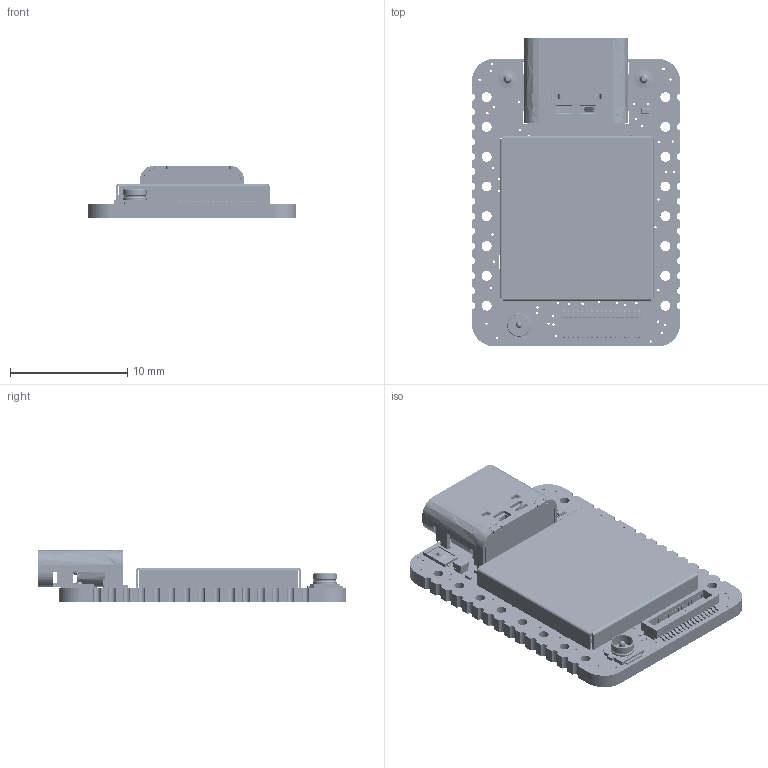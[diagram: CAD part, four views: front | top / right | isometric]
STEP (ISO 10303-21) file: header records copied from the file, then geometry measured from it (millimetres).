
FILE_DESCRIPTION(('Designed by EasyEDA Pro'),'2;1');
FILE_NAME('Open CASCADE Shape Model','2026-05-27T17:10:09',('Author'),( 'Open CASCADE'),'Open CASCADE STEP processor 7.8','Open CASCADE 7.8' ,'Unknown');
FILE_SCHEMA(('AUTOMOTIVE_DESIGN { 1 0 10303 214 1 1 1 1 }'));
Length unit declared in the file: millimetre
Products named in the file (908): EasyEDA PCB Model~xSNd; Board~xSNd; TopCopper~xSNd; BottomCopper~xSNd; TopSilkscreen~xSNd; BottomSilkscreen~xSNd; TopFpcStiffener~xSNd; BottomFpcStiffener~xSNd; U8~w11-屏蔽罩~w11-屏蔽罩~xSNd; w11-屏蔽罩~w11-屏蔽罩~xSNd; U3~LED-SMD-4P-H1010-RGB~LED-SMD_4P-L1.0-W1.0_
TZ-H1010-RGB-A-BU08UF-TA1305NA-W109~xSNd; LED-SMD-4P-H1010-RGB~LED-SMD_4P-L1.0-W1.0_
TZ-H1010-RGB-A-BU08UF-TA1305NA-W109~xSNd; U7~LGA-14_L3.0-W2.5-P0.50-BR~LGA-14_L3.0-W2.5-P0.50-BR~xSNd; LGA-14_L3.0-W2.5-P0.50-BR~LGA-14_L3.0-W2.5-P0.50-BR~xSNd; L1~R0201~R0201_L0.6-W0.3-H0.3~xSNd; R0201~R0201_L0.6-W0.3-H0.3~xSNd; R11~R0201~R0201_L0.6-W0.3-H0.3~xSNd; R1~R0201~R0201_L0.6-W0.3-H0.3~xSNd; R10~R0201~R0201_L0.6-W0.3-H0.3~xSNd; R12~R0201~R0201_L0.6-W0.3-H0.3~xSNd; R13~R0201~R0201_L0.6-W0.3-H0.3~xSNd; R14~R0201~R0201_L0.6-W0.3-H0.3~xSNd; R3~R0201~R0201_L0.6-W0.3-H0.3~xSNd; R4~R0201~R0201_L0.6-W0.3-H0.3~xSNd; R5~R0201~R0201_L0.6-W0.3-H0.3~xSNd; R6~R0201~R0201_L0.6-W0.3-H0.3~xSNd; R7~R0201~R0201_L0.6-W0.3-H0.3~xSNd; R8~R0201~R0201_L0.6-W0.3-H0.3~xSNd; R9~R0201~R0201_L0.6-W0.3-H0.3~xSNd; L2~R0201~R0201_L0.6-W0.3-H0.3~xSNd; U6~DFN-8_L2.5-W2.5-P0.50-TL-EP~DFN-8_L2.5-W2.5-P0.50-TL-EP1.9~xSNd; DFN-8_L2.5-W2.5-P0.50-TL-EP~DFN-8_L2.5-W2.5-P0.50-TL-EP1.9~xSNd; C17~C0201~C0201~xSNd; C0201~C0201~xSNd; C16~C0201~C0201~xSNd; C22~C0201~C0201~xSNd; C10~C0201~C0201~xSNd; C9~C0201~C0201~xSNd; C8~C0201~C0201~xSNd; C2~C0201~C0201~xSNd ...
Assembly tree (942 placements, depth 3):
  EasyEDA PCB Model~xSNd
    Board~xSNd
    TopCopper~xSNd
      TopCopper~xSNd
      TopCopper~xSNd
      TopCopper~xSNd
      TopCopper~xSNd
      TopCopper~xSNd
      TopCopper~xSNd
      TopCopper~xSNd
      TopCopper~xSNd
      TopCopper~xSNd
      TopCopper~xSNd
      TopCopper~xSNd
      TopCopper~xSNd
      TopCopper~xSNd
      TopCopper~xSNd
      TopCopper~xSNd
      TopCopper~xSNd
      TopCopper~xSNd
      TopCopper~xSNd
      TopCopper~xSNd
      TopCopper~xSNd
      TopCopper~xSNd
      TopCopper~xSNd
      TopCopper~xSNd
      TopCopper~xSNd
      TopCopper~xSNd
      TopCopper~xSNd
      TopCopper~xSNd
      TopCopper~xSNd
      TopCopper~xSNd
      TopCopper~xSNd
      TopCopper~xSNd
      TopCopper~xSNd
      TopCopper~xSNd
      TopCopper~xSNd
      TopCopper~xSNd
      TopCopper~xSNd
      TopCopper~xSNd
      TopCopper~xSNd
      TopCopper~xSNd
      TopCopper~xSNd
      TopCopper~xSNd
      TopCopper~xSNd
      TopCopper~xSNd
      TopCopper~xSNd
      TopCopper~xSNd
      TopCopper~xSNd
      TopCopper~xSNd
      TopCopper~xSNd
      TopCopper~xSNd
      TopCopper~xSNd
      TopCopper~xSNd
      TopCopper~xSNd
      TopCopper~xSNd
      TopCopper~xSNd
      TopCopper~xSNd
      TopCopper~xSNd
      TopCopper~xSNd
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Bounding box: 17.76 x 26.32 x 4.48 mm (x, y, z)
Volume: 754.8 mm3; surface area: 3179.5 mm2
Topology: 302 solids, 1127 shells, 20590 faces, 76669 edges, 58522 vertices
Faces by surface type: plane 12154, bspline 6364, cylinder 1728, sphere 302, torus 24, cone 18
Entity records: 596598 total; most frequent: CARTESIAN_POINT 138406, ORIENTED_EDGE 72041, DIRECTION 63354, EDGE_CURVE 47666, VERTEX_POINT 39510, LINE 35018, VECTOR 35018, AXIS2_PLACEMENT_3D 14168
